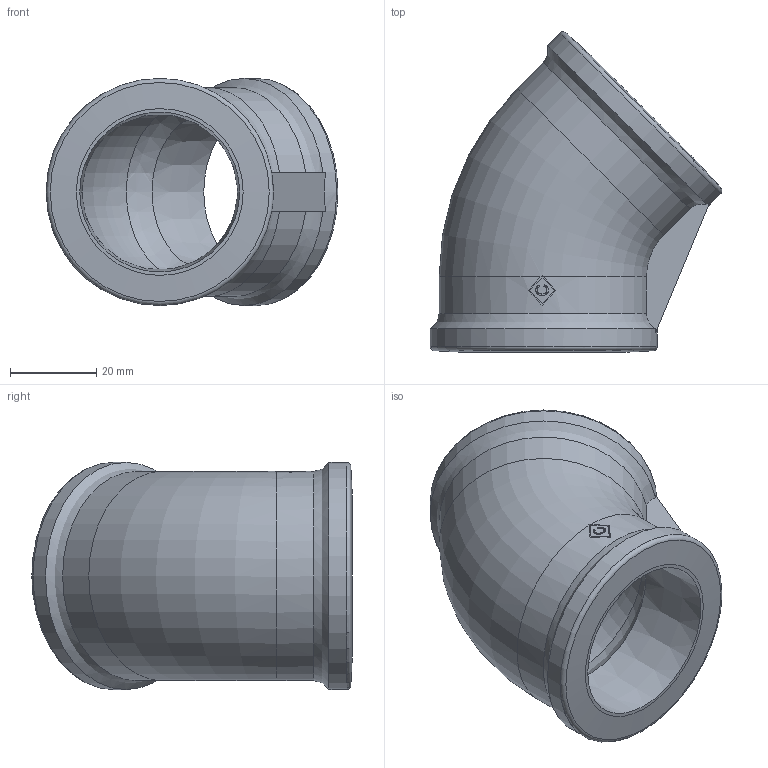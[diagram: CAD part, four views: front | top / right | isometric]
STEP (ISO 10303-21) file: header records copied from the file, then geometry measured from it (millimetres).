
FILE_DESCRIPTION((''),'2;1');
FILE_NAME('P:\Fastrack\53909_CRANE\Crane\Fig.155 45deg Elbow\New 1.25 inch\155-1.25x45.stp','2009-09-16T10:52:50',('btaylor'),(''),'Autodesk Inventor 2008','Autodesk Inventor 2008','');
FILE_SCHEMA(('AUTOMOTIVE_DESIGN { 1 0 10303 214 1 1 1 1 }'));
Length unit declared in the file: millimetre
Products named in the file (1): 155-1.25x45
Bounding box: 67.67 x 74.31 x 52.7 mm (x, y, z)
Volume: 49075.4 mm3; surface area: 20497.8 mm2
Topology: 1 solids, 1 shells, 43 faces, 130 edges, 91 vertices
Faces by surface type: plane 15, bspline 12, cylinder 7, torus 5, cone 4
Full cylindrical faces by diameter (mm): 52.7 x2
Entity records: 2826 total; most frequent: CARTESIAN_POINT 1712, ORIENTED_EDGE 238, DIRECTION 198, EDGE_CURVE 119, VERTEX_POINT 89, AXIS2_PLACEMENT_3D 85, EDGE_LOOP 56, FACE_OUTER_BOUND 43
